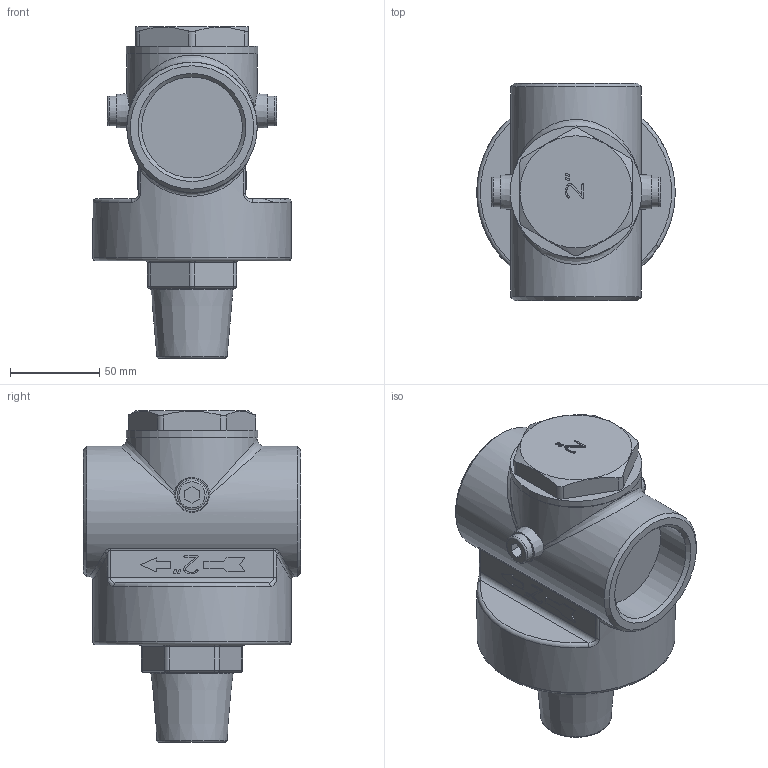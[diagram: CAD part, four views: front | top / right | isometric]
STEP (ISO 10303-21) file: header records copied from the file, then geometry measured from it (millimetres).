
FILE_DESCRIPTION(('STEP AP242'), '1');
FILE_NAME('VT.087.N.0945', '', ('UNSPECIFIED'), ('UNSPECIFIED'), 'C3D Converter', 'C3D Toolkit', '');
FILE_SCHEMA(('AP242_MANAGED_MODEL_BASED_3D_ENGINEERING_MIM_LF { 1 0 10303 442 1 1 4 }'));
Length unit declared in the file: millimetre
Bounding box: 111.5 x 122 x 186.5 mm (x, y, z)
Volume: 923748.1 mm3; surface area: 88198.3 mm2
Topology: 1 solids, 1 shells, 405 faces, 1082 edges, 709 vertices
Faces by surface type: plane 160, extrusion 153, cylinder 41, torus 24, bspline 18, cone 9
Full cylindrical faces by diameter (mm): 16.7 x2, 32.5 x1, 56.657 x2, 73.3 x2, 74 x1, 111.5 x1
Entity records: 16493 total; most frequent: CARTESIAN_POINT 7121, ORIENTED_EDGE 2088, DIRECTION 1442, EDGE_CURVE 1044, VECTOR 700, VERTEX_POINT 691, LINE 547, B_SPLINE_CURVE_WITH_KNOTS 529
